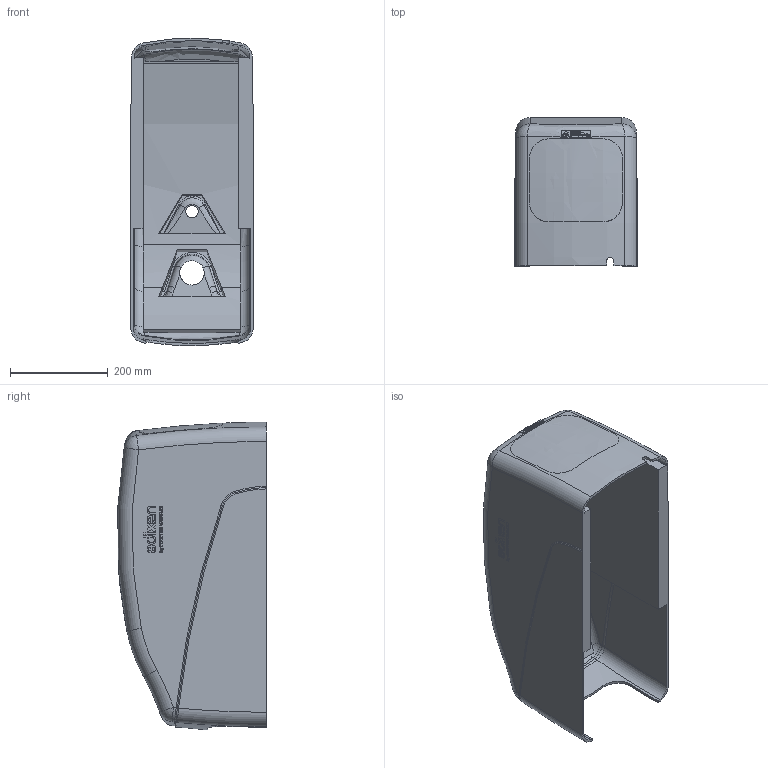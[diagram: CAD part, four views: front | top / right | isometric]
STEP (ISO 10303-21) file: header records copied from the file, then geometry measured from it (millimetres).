
FILE_DESCRIPTION((''),'2;1');
FILE_NAME('CAPOT-INSONO-EQ-NRC15_SW0001','2016-03-01T',('msacchet'),(''),'PRO/ENGINEER BY PARAMETRIC TECHNOLOGY CORPORATION, 2014090','PRO/ENGINEER BY PARAMETRIC TECHNOLOGY CORPORATION, 2014090','');
FILE_SCHEMA(('CONFIG_CONTROL_DESIGN'));
Length unit declared in the file: millimetre
Products named in the file (1): CAPOT-INSONO-EQ-NRC15_SW0001
Bounding box: 250 x 303.95 x 629.29 mm (x, y, z)
Volume: 8394768 mm3; surface area: 1213424.9 mm2
Topology: 1 solids, 1 shells, 1133 faces, 3683 edges, 2678 vertices
Faces by surface type: plane 559, extrusion 422, bspline 66, torus 43, cylinder 33, sphere 8, revolution 2
Entity records: 48924 total; most frequent: CARTESIAN_POINT 19144, ORIENTED_EDGE 7358, DIRECTION 4016, EDGE_CURVE 3679, VERTEX_POINT 2676, VECTOR 2314, B_SPLINE_CURVE_WITH_KNOTS 2003, LINE 1892
